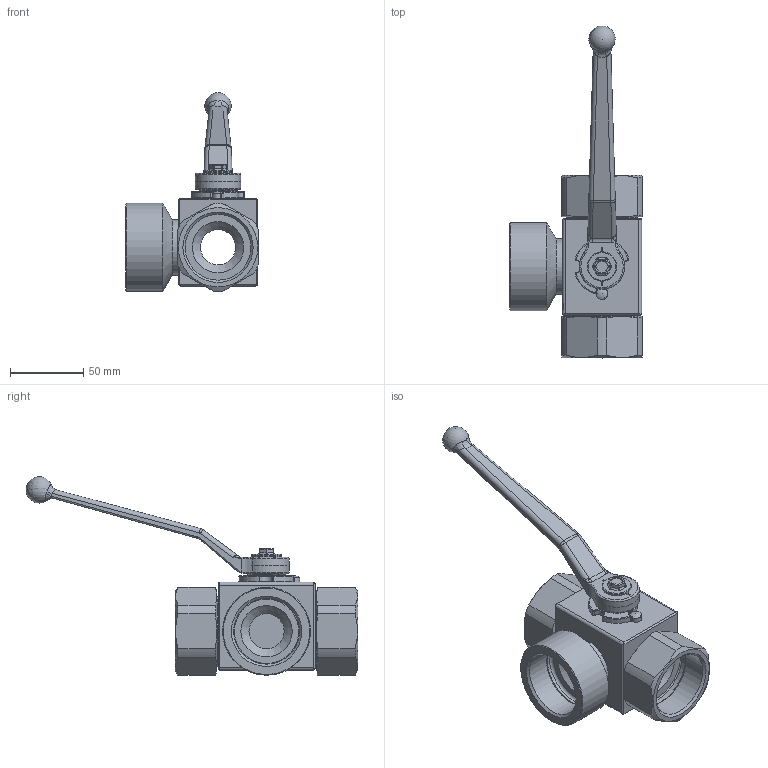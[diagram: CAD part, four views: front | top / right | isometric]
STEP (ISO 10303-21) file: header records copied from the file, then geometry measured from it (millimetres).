
FILE_DESCRIPTION( ( 'Unknown' ), '1' );
FILE_NAME( 'H:/PISTER/3D-MODELLE/BK3 stp/BK3 DN25 G3_2.stp', 'Unknown', ( 'Unknown' ), ( 'Unknown' ), 'PSStep 14.0', 'Unknown', ' ' );
FILE_SCHEMA( ( 'AUTOMOTIVE_DESIGN { 1 0 10303 214 1 1 1 1 }' ) );
Length unit declared in the file: millimetre
Products named in the file (11): Assem1; 10-025-001; 06-025-186-oa7; 09-14-001; 58-28740-13-oa8; Griff_SW14; 58-0933-147; 04-025-149-oa9; 04-025-149-oa10; 01-025-024-oa11; 04-025-059-oa12
Assembly tree (10 placements, depth 2):
  Assem1
    10-025-001
    06-025-186-oa7
    09-14-001
    58-28740-13-oa8
    Griff_SW14
    58-0933-147
    04-025-149-oa9
    04-025-149-oa10
    01-025-024-oa11
    04-025-059-oa12
Bounding box: 90.5 x 226.18 x 135.4 mm (x, y, z)
Volume: 160858.1 mm3; surface area: 89600.2 mm2
Topology: 10 solids, 10 shells, 382 faces, 941 edges, 575 vertices
Faces by surface type: plane 133, cylinder 130, torus 50, bspline 28, cone 27, sphere 14
Full cylindrical faces by diameter (mm): 5 x1, 6 x1, 6.5 x1, 7.98 x1, 20 x3, 20.2 x1, 24 x3, 25 x1, 37.9 x1, 38 x1, 43.3 x2, 44.845 x3, 47.9 x1, 48 x4, 50 x2, 51 x2, 60 x1
Entity records: 15390 total; most frequent: CARTESIAN_POINT 3659, DIRECTION 1863, ORIENTED_EDGE 1638, EDGE_CURVE 819, AXIS2_PLACEMENT_3D 767, VERTEX_POINT 544, EDGE_LOOP 488, FACE_OUTER_BOUND 430
